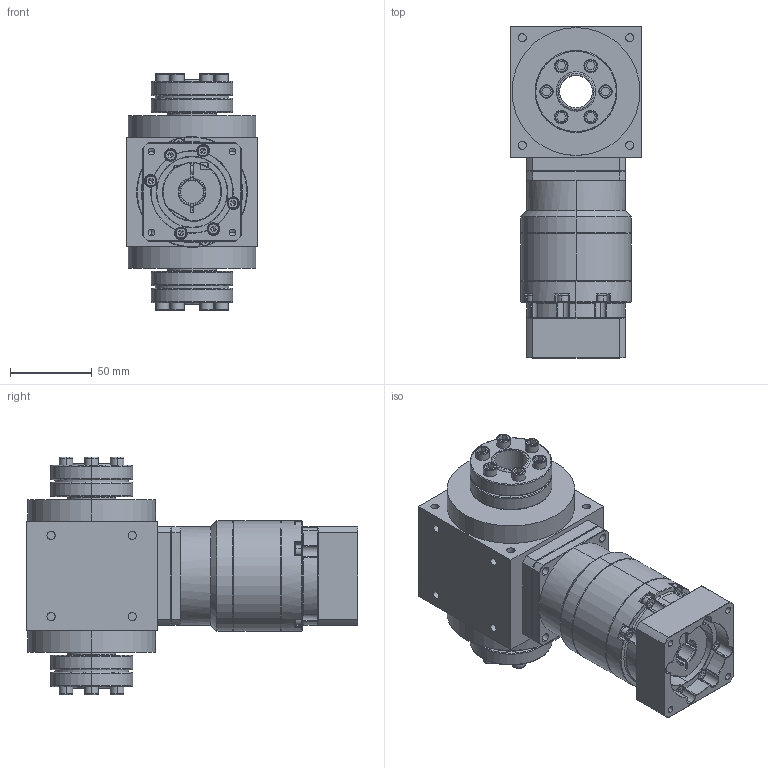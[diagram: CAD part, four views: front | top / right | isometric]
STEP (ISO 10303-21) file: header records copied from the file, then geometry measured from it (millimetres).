
FILE_DESCRIPTION (( 'STEP AP203' ), '1' );
FILE_NAME ('AAW080AS-L2-2HP 14-50-70-M5.STEP', '2024-12-23T09:01:10', ( '' ), ( '' ), 'SwSTEP 2.0', 'SolidWorks 2021', '' );
FILE_SCHEMA (( 'CONFIG_CONTROL_DESIGN' ));
Length unit declared in the file: millimetre
Products named in the file (3): AAW080AS-L2-2HP 14-50-70-M5; AAW080AS-2HP; VRB-060-L2-S2-P1 14-50-70-M5
Assembly tree (2 placements, depth 2):
  AAW080AS-L2-2HP 14-50-70-M5
    AAW080AS-2HP
    VRB-060-L2-S2-P1 14-50-70-M5
Bounding box: 80 x 202.5 x 145 mm (x, y, z)
Volume: 878948.1 mm3; surface area: 144687.8 mm2
Topology: 33 solids, 33 shells, 1232 faces, 2953 edges, 1833 vertices
Faces by surface type: plane 512, cylinder 406, cone 204, bspline 60, torus 50
Entity records: 36988 total; most frequent: CARTESIAN_POINT 8112, DIRECTION 6240, ORIENTED_EDGE 5794, EDGE_CURVE 2897, AXIS2_PLACEMENT_3D 2442, VERTEX_POINT 1833, EDGE_LOOP 1380, LINE 1356
